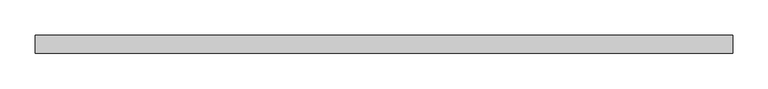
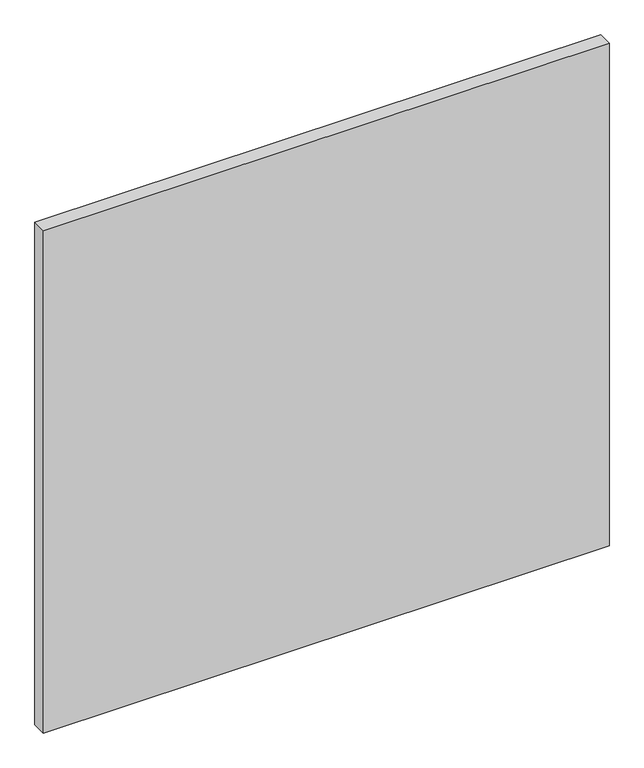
"""IFC4 building model written with IfcOpenShell, lengths in millimetres: plate geometry, Системная панель : ADSK_Cтеклопакет_25."""

from ifc_helpers import new_model, si_unit, origin, origin_with_axes, place, context, project, spatial, polyline, outline, extrude, source, transform, mapped, element, save


def plate_c48ec016(model_context):
    return source(origin(), model_context, "Body", "SweptSolid", [
        extrude(outline(polyline([(492.5, -12.5), (-492.5, -12.5), (-492.5, 12.5), (492.5, 12.5), (492.5, -12.5)])), origin_with_axes(), (0.0, 0.0, 1.0), 925.0),
    ])


if __name__ == "__main__":
    model = new_model("IFC4")
    model_context = context("Model", 3, world=origin())
    ifc_project = project(units=[si_unit("LENGTHUNIT", "METRE", prefix="MILLI")], contexts=[model_context])
    site = spatial("IfcSite", under=ifc_project)
    building = spatial("IfcBuilding", under=site)
    placement = place(None, origin())
    plate_shape = plate_c48ec016(model_context)
    element("IfcPlate", 1, ObjectType="Системная панель : ADSK_Cтеклопакет_25", at=placement, inside=building, context=model_context, shape_type="MappedRepresentation", body=[
        mapped(plate_shape, transform((0.0, 0.0, 0.0), x_axis=(1.0, 0.0, 0.0), y_axis=(0.0, 1.0, 0.0), z_axis=(0.0, 0.0, 1.0))),
    ])
    save(model, "model.ifc")
